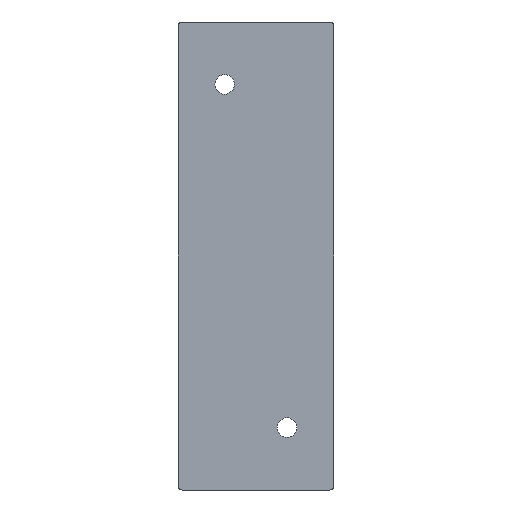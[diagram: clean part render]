
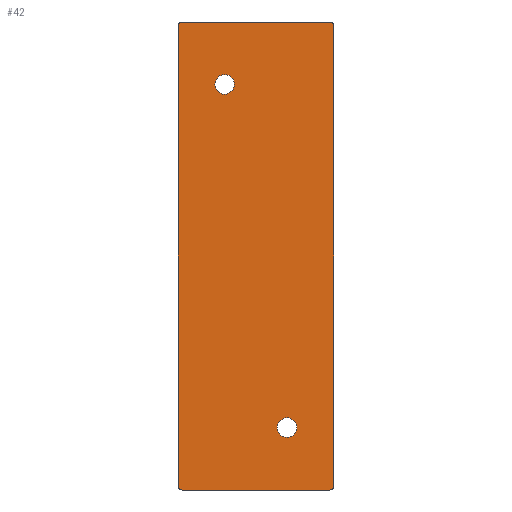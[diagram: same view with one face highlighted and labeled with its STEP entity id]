
A CAD part, front view. The second image highlights one B-rep face of the part: STEP entity #42.
In plain terms, the highlighted planar face has unit normal (0, -1, 0).
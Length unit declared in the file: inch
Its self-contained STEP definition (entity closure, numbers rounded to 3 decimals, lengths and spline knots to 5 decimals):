
#5 = CARTESIAN_POINT ( 'NONE',  ( -0.9475, 0., -3. ) ) ;
#13 = CARTESIAN_POINT ( 'NONE',  ( 0.3975, 0., -2.075 ) ) ;
#17 = VERTEX_POINT ( 'NONE', #367 ) ;
#18 = AXIS2_PLACEMENT_3D ( 'NONE', #306, #466, #233 ) ;
#23 = AXIS2_PLACEMENT_3D ( 'NONE', #463, #270, #302 ) ;
#24 = CARTESIAN_POINT ( 'NONE',  ( 0.3975, 0., -2.325 ) ) ;
#39 = VECTOR ( 'NONE', #313, 39.37008 ) ;
#42 = ADVANCED_FACE ( 'NONE', ( #292, #417, #451 ), #221, .F. ) ;
#48 = CARTESIAN_POINT ( 'NONE',  ( -0.9975, 0., -3. ) ) ;
#57 = ORIENTED_EDGE ( 'NONE', *, *, #264, .T. ) ;
#59 = ORIENTED_EDGE ( 'NONE', *, *, #82, .T. ) ;
#74 = AXIS2_PLACEMENT_3D ( 'NONE', #286, #141, #108 ) ;
#78 = CARTESIAN_POINT ( 'NONE',  ( 0.9975, 0., 2.95 ) ) ;
#82 = EDGE_CURVE ( 'NONE', #283, #17, #420, .T. ) ;
#86 = CARTESIAN_POINT ( 'NONE',  ( 0.9475, 0., 2.95 ) ) ;
#87 = ORIENTED_EDGE ( 'NONE', *, *, #173, .T. ) ;
#91 = VERTEX_POINT ( 'NONE', #24 ) ;
#93 = VERTEX_POINT ( 'NONE', #409 ) ;
#99 = ORIENTED_EDGE ( 'NONE', *, *, #385, .F. ) ;
#108 = DIRECTION ( 'NONE',  ( 0., 0., 1. ) ) ;
#110 = AXIS2_PLACEMENT_3D ( 'NONE', #86, #272, #243 ) ;
#116 = EDGE_LOOP ( 'NONE', ( #167, #390 ) ) ;
#122 = CIRCLE ( 'NONE', #495, 0.05 ) ;
#129 = DIRECTION ( 'NONE',  ( 0., 0., 1. ) ) ;
#141 = DIRECTION ( 'NONE',  ( 0., 1., 0. ) ) ;
#151 = CARTESIAN_POINT ( 'NONE',  ( 0.9475, 0., 3. ) ) ;
#152 = CARTESIAN_POINT ( 'NONE',  ( 0.9975, 0., -3. ) ) ;
#156 = LINE ( 'NONE', #48, #236 ) ;
#164 = LINE ( 'NONE', #237, #39 ) ;
#167 = ORIENTED_EDGE ( 'NONE', *, *, #310, .T. ) ;
#171 = DIRECTION ( 'NONE',  ( 0., -1., 0. ) ) ;
#173 = EDGE_CURVE ( 'NONE', #363, #328, #122, .T. ) ;
#176 = AXIS2_PLACEMENT_3D ( 'NONE', #305, #421, #232 ) ;
#178 = CARTESIAN_POINT ( 'NONE',  ( 0.3975, 0., -2.2 ) ) ;
#181 = EDGE_LOOP ( 'NONE', ( #57, #59 ) ) ;
#183 = EDGE_LOOP ( 'NONE', ( #201, #289, #279, #488, #99, #87, #350, #381 ) ) ;
#186 = DIRECTION ( 'NONE',  ( 0., 0., 1. ) ) ;
#190 = VECTOR ( 'NONE', #303, 39.37008 ) ;
#193 = CARTESIAN_POINT ( 'NONE',  ( -0.4025, 0., 2.075 ) ) ;
#201 = ORIENTED_EDGE ( 'NONE', *, *, #224, .F. ) ;
#204 = CARTESIAN_POINT ( 'NONE',  ( 0.9975, 0., -2.95 ) ) ;
#212 = VECTOR ( 'NONE', #465, 39.37008 ) ;
#221 = PLANE ( 'NONE',  #391 ) ;
#223 = VERTEX_POINT ( 'NONE', #340 ) ;
#224 = EDGE_CURVE ( 'NONE', #291, #473, #419, .T. ) ;
#232 = DIRECTION ( 'NONE',  ( 0., 0., 1. ) ) ;
#233 = DIRECTION ( 'NONE',  ( 0., 0., 1. ) ) ;
#234 = CIRCLE ( 'NONE', #18, 0.05 ) ;
#236 = VECTOR ( 'NONE', #311, 39.37008 ) ;
#237 = CARTESIAN_POINT ( 'NONE',  ( -0.9975, 0., -3. ) ) ;
#243 = DIRECTION ( 'NONE',  ( 0., 0., 1. ) ) ;
#264 = EDGE_CURVE ( 'NONE', #17, #283, #389, .T. ) ;
#270 = DIRECTION ( 'NONE',  ( 0., 1., 0. ) ) ;
#272 = DIRECTION ( 'NONE',  ( 0., -1., 0. ) ) ;
#279 = ORIENTED_EDGE ( 'NONE', *, *, #293, .F. ) ;
#283 = VERTEX_POINT ( 'NONE', #193 ) ;
#286 = CARTESIAN_POINT ( 'NONE',  ( -0.4025, 0., 2.2 ) ) ;
#289 = ORIENTED_EDGE ( 'NONE', *, *, #343, .T. ) ;
#291 = VERTEX_POINT ( 'NONE', #78 ) ;
#292 = FACE_BOUND ( 'NONE', #116, .T. ) ;
#293 = EDGE_CURVE ( 'NONE', #223, #326, #339, .T. ) ;
#296 = AXIS2_PLACEMENT_3D ( 'NONE', #439, #171, #319 ) ;
#297 = DIRECTION ( 'NONE',  ( 0., -1., 0. ) ) ;
#302 = DIRECTION ( 'NONE',  ( 0., 0., 1. ) ) ;
#303 = DIRECTION ( 'NONE',  ( 0., 0., -1. ) ) ;
#305 = CARTESIAN_POINT ( 'NONE',  ( 0.3975, 0., -2.2 ) ) ;
#306 = CARTESIAN_POINT ( 'NONE',  ( 0.9475, 0., -2.95 ) ) ;
#310 = EDGE_CURVE ( 'NONE', #416, #91, #433, .T. ) ;
#311 = DIRECTION ( 'NONE',  ( 0., 0., 1. ) ) ;
#313 = DIRECTION ( 'NONE',  ( -1., 0., 0. ) ) ;
#319 = DIRECTION ( 'NONE',  ( 0., 0., 1. ) ) ;
#326 = VERTEX_POINT ( 'NONE', #151 ) ;
#328 = VERTEX_POINT ( 'NONE', #5 ) ;
#339 = LINE ( 'NONE', #499, #212 ) ;
#340 = CARTESIAN_POINT ( 'NONE',  ( -0.9475, 0., 3. ) ) ;
#343 = EDGE_CURVE ( 'NONE', #291, #326, #431, .T. ) ;
#347 = CIRCLE ( 'NONE', #442, 0.125 ) ;
#349 = CARTESIAN_POINT ( 'NONE',  ( -0.9975, 0., -2.95 ) ) ;
#350 = ORIENTED_EDGE ( 'NONE', *, *, #425, .F. ) ;
#355 = CARTESIAN_POINT ( 'NONE',  ( -0.9975, 0., 2.95 ) ) ;
#363 = VERTEX_POINT ( 'NONE', #349 ) ;
#367 = CARTESIAN_POINT ( 'NONE',  ( -0.4025, 0., 2.325 ) ) ;
#373 = DIRECTION ( 'NONE',  ( 0., 1., 0. ) ) ;
#381 = ORIENTED_EDGE ( 'NONE', *, *, #458, .T. ) ;
#384 = CIRCLE ( 'NONE', #296, 0.05 ) ;
#385 = EDGE_CURVE ( 'NONE', #363, #482, #156, .T. ) ;
#389 = CIRCLE ( 'NONE', #23, 0.125 ) ;
#390 = ORIENTED_EDGE ( 'NONE', *, *, #496, .T. ) ;
#391 = AXIS2_PLACEMENT_3D ( 'NONE', #414, #373, #186 ) ;
#409 = CARTESIAN_POINT ( 'NONE',  ( 0.9475, 0., -3. ) ) ;
#414 = CARTESIAN_POINT ( 'NONE',  ( 0., 0., 0. ) ) ;
#416 = VERTEX_POINT ( 'NONE', #13 ) ;
#417 = FACE_BOUND ( 'NONE', #181, .T. ) ;
#419 = LINE ( 'NONE', #152, #190 ) ;
#420 = CIRCLE ( 'NONE', #74, 0.125 ) ;
#421 = DIRECTION ( 'NONE',  ( 0., 1., 0. ) ) ;
#425 = EDGE_CURVE ( 'NONE', #93, #328, #164, .T. ) ;
#431 = CIRCLE ( 'NONE', #110, 0.05 ) ;
#433 = CIRCLE ( 'NONE', #176, 0.125 ) ;
#439 = CARTESIAN_POINT ( 'NONE',  ( -0.9475, 0., 2.95 ) ) ;
#442 = AXIS2_PLACEMENT_3D ( 'NONE', #178, #483, #129 ) ;
#451 = FACE_OUTER_BOUND ( 'NONE', #183, .T. ) ;
#452 = CARTESIAN_POINT ( 'NONE',  ( -0.9475, 0., -2.95 ) ) ;
#456 = DIRECTION ( 'NONE',  ( 0., 0., 1. ) ) ;
#458 = EDGE_CURVE ( 'NONE', #93, #473, #234, .T. ) ;
#463 = CARTESIAN_POINT ( 'NONE',  ( -0.4025, 0., 2.2 ) ) ;
#465 = DIRECTION ( 'NONE',  ( 1., 0., 0. ) ) ;
#466 = DIRECTION ( 'NONE',  ( 0., -1., 0. ) ) ;
#473 = VERTEX_POINT ( 'NONE', #204 ) ;
#481 = EDGE_CURVE ( 'NONE', #223, #482, #384, .T. ) ;
#482 = VERTEX_POINT ( 'NONE', #355 ) ;
#483 = DIRECTION ( 'NONE',  ( 0., 1., 0. ) ) ;
#488 = ORIENTED_EDGE ( 'NONE', *, *, #481, .T. ) ;
#495 = AXIS2_PLACEMENT_3D ( 'NONE', #452, #297, #456 ) ;
#496 = EDGE_CURVE ( 'NONE', #91, #416, #347, .T. ) ;
#499 = CARTESIAN_POINT ( 'NONE',  ( -0.9975, 0., 3. ) ) ;
